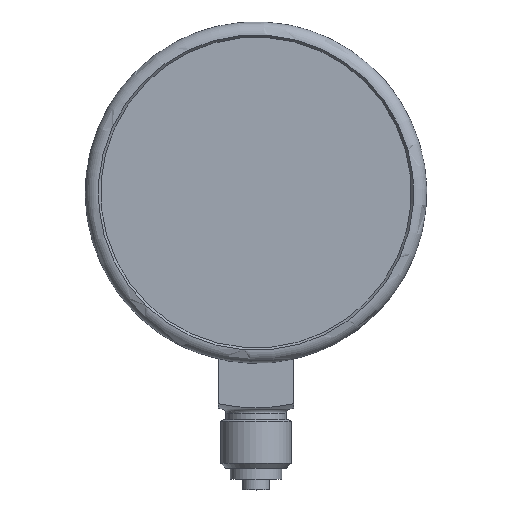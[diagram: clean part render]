
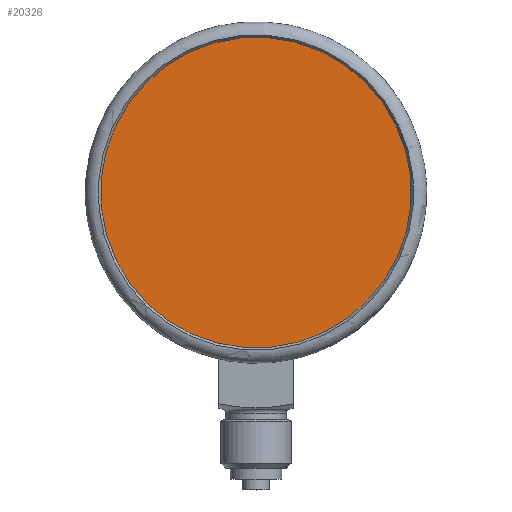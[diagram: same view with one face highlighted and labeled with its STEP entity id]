
A CAD part, top view. The second image highlights one B-rep face of the part: STEP entity #20326.
In plain terms, the highlighted planar face has unit normal (0, 0, 1).
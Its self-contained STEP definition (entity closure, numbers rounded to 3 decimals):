
#1034=CIRCLE('',#21520,28.75);
#2070=FACE_OUTER_BOUND('',#3210,.T.);
#3210=EDGE_LOOP('',(#12871));
#7921=VERTEX_POINT('',#29503);
#9897=EDGE_CURVE('',#7921,#7921,#1034,.T.);
#12871=ORIENTED_EDGE('',*,*,#9897,.F.);
#18615=PLANE('',#21519);
#20326=ADVANCED_FACE('',(#2070),#18615,.T.);
#21519=AXIS2_PLACEMENT_3D('',#29502,#23692,#23693);
#21520=AXIS2_PLACEMENT_3D('',#29504,#23694,#23695);
#23692=DIRECTION('center_axis',(0.,0.,
1.));
#23693=DIRECTION('ref_axis',(-0.247,-0.969,0.));
#23694=DIRECTION('center_axis',(0.,0.,
-1.));
#23695=DIRECTION('ref_axis',(0.969,-0.247,0.));
#29502=CARTESIAN_POINT('Origin',(13.93,22.452,25.));
#29503=CARTESIAN_POINT('',(27.86,18.903,25.));
#29504=CARTESIAN_POINT('Origin',(0.,26.,25.));
